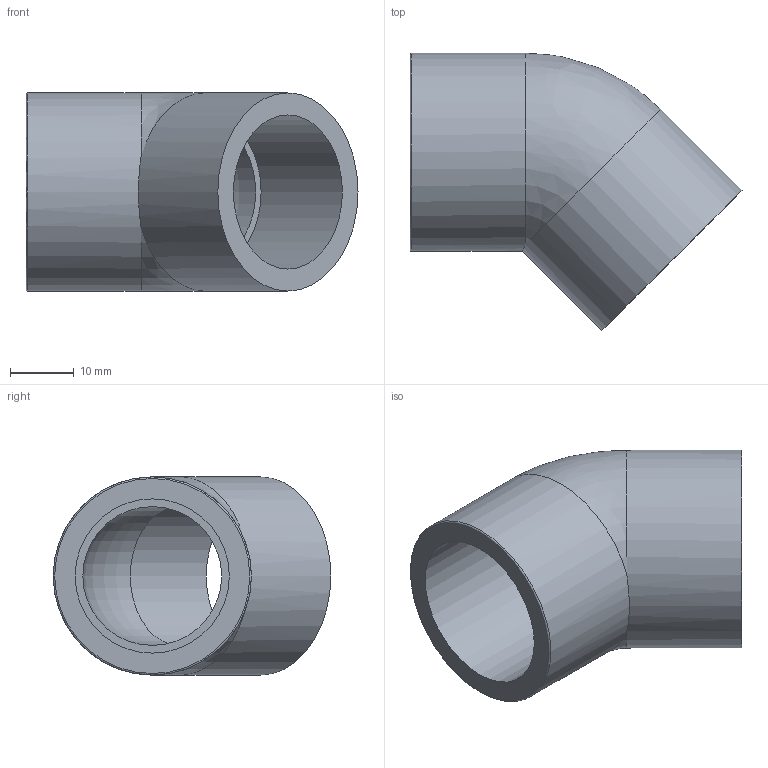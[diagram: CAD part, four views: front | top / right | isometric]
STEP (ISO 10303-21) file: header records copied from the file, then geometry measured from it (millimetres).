
FILE_DESCRIPTION(/* description */ ('PLASSON THREADED 45° ELBOW HF 3/4"'),/* implementation_level */ '2;1');
FILE_NAME(/* name */ 'C:\Dropbox\KIMPROJECTS-Inventor\99-16-3568-Processing\PVC Catalog 2017\26_09_18\054501\054501007.ipt.stp',/* time_stamp */ '2018-09-27T11:50:29+03:00',/* author */ ('KIM'),/* organization */ (''),/* preprocessor_version */ 'ST-DEVELOPER v15.6',/* originating_system */ 'Autodesk Inventor 2015',/* authorisation */ '');
FILE_SCHEMA (('AUTOMOTIVE_DESIGN { 1 0 10303 214 3 1 1 }'));
Length unit declared in the file: millimetre
Products named in the file (1): 054501007
Bounding box: 51.93 x 43.43 x 31 mm (x, y, z)
Volume: 15187.1 mm3; surface area: 8878.6 mm2
Topology: 1 solids, 1 shells, 11 faces, 22 edges, 13 vertices
Faces by surface type: cylinder 4, plane 4, torus 2, bspline 1
Full cylindrical faces by diameter (mm): 24.117 x2, 31 x2
Entity records: 280 total; most frequent: CARTESIAN_POINT 61, DIRECTION 46, ORIENTED_EDGE 24, AXIS2_PLACEMENT_3D 23, EDGE_LOOP 21, EDGE_CURVE 12, FACE_OUTER_BOUND 11, CIRCLE 11
